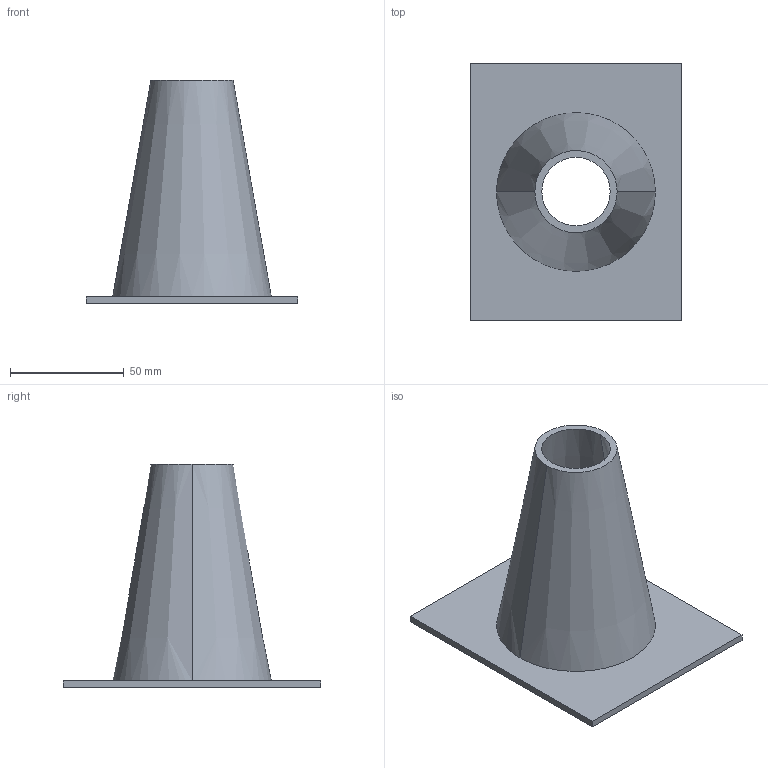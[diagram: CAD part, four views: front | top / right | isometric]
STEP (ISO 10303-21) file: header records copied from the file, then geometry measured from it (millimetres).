
FILE_DESCRIPTION(('CATIA V5 STEP Exchange'),'2;1');
FILE_NAME('C:\_Andres\UNIVERSIDAD\IQS\ASIGNATURAS\DAO\EXF\EXF-15161c\1original\Busquet_Ribera_Ej08-ensambla_v3.stp','2016-03-04T21:37:15+00:00',('none'),('none'),'CATIA Version 5 Release 20 SP 1 (IN-10)','CATIA V5 STEP AP203','none');
FILE_SCHEMA(('CONFIG_CONTROL_DESIGN'));
Length unit declared in the file: millimetre
Products named in the file (1): Busquet_Ribera_Ej08-ensambla_v3
Bounding box: 93 x 113 x 98 mm (x, y, z)
Volume: 67140.3 mm3; surface area: 46288.2 mm2
Topology: 1 solids, 1 shells, 11 faces, 24 edges, 16 vertices
Faces by surface type: plane 7, cone 4
Entity records: 414 total; most frequent: CARTESIAN_POINT 127, ORIENTED_EDGE 48, DIRECTION 44, EDGE_CURVE 24, AXIS2_PLACEMENT_3D 17, VECTOR 16, LINE 16, VERTEX_POINT 16
